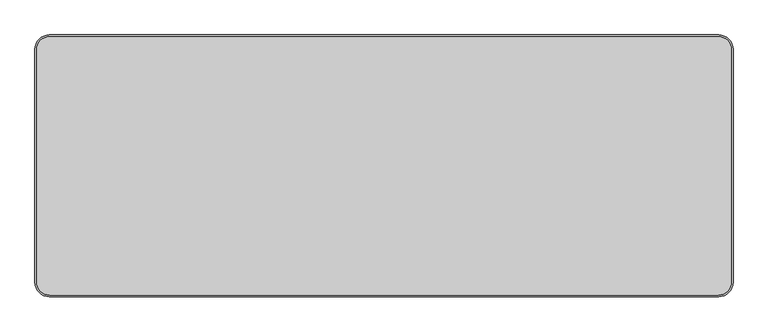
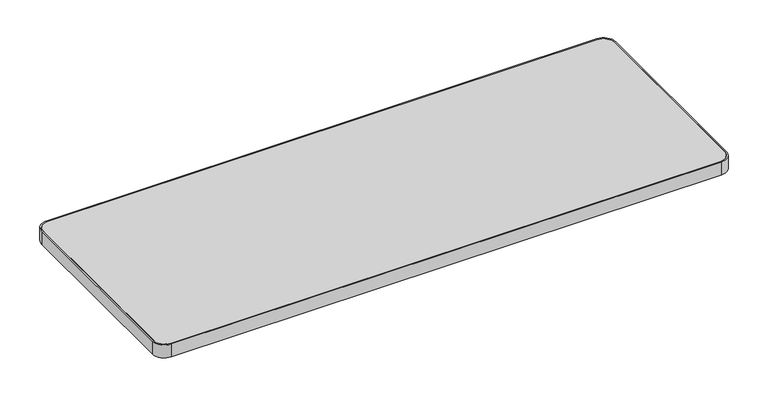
"""IFC4 building model written with IfcOpenShell, lengths in millimetres: furniture geometry, Steelcase - Groupwork - Table - Top - Rectangular : 18D x 48W - HPL."""

from ifc_helpers import new_model, si_unit, point, frame, frame_2d, origin, place, context, project, spatial, polyline, circle_curve, trimmed, segment, composite_curve, outline, extrude, source, transform, mapped, element, save


def furniture_dde260d6(model_context):
    return source(origin(), model_context, "Body", "SweptSolid", [
        extrude(outline(composite_curve([segment(polyline([(-612.14, 225.6), (555.34, 225.6)]), True, "CONTINUOUS"), segment(trimmed(circle_curve(frame_2d((555.34, 202.74)), 22.86), [point((555.34, 225.6))], [point((578.2, 202.74))], False, "CARTESIAN"), True, "CONTINUOUS"), segment(polyline([(578.2, 202.74), (578.2, -202.74)]), True, "CONTINUOUS"), segment(trimmed(circle_curve(frame_2d((555.34, -202.74)), 22.86), [point((578.2, -202.74))], [point((555.34, -225.6))], False, "CARTESIAN"), True, "CONTINUOUS"), segment(polyline([(555.34, -225.6), (-612.14, -225.6)]), True, "CONTINUOUS"), segment(trimmed(circle_curve(frame_2d((-612.14, -202.74)), 22.86), [point((-612.14, -225.6))], [point((-635.0, -202.74))], False, "CARTESIAN"), True, "CONTINUOUS"), segment(polyline([(-635.0, -202.74), (-635.0, 202.74)]), True, "CONTINUOUS"), segment(trimmed(circle_curve(frame_2d((-612.14, 202.74)), 22.86), [point((-635.0, 202.74))], [point((-612.14, 225.6))], False, "CARTESIAN"), True, "CONTINUOUS")], self_intersect=False)), frame((0.0, 0.0, 694.944), z_axis=(0.0, 0.0, 1.0), x_axis=(1.0, 0.0, 0.0)), (0.0, 0.0, 1.0), 28.956),
        extrude(outline(composite_curve([segment(trimmed(circle_curve(frame_2d((555.7385373, 203.1385373)), 25.4614627), [point((555.7385373, 228.6))], [point((581.2, 203.1385373))], False, "CARTESIAN"), True, "CONTINUOUS"), segment(polyline([(581.2, 203.1385373), (581.2, -203.2211297)]), True, "CONTINUOUS"), segment(trimmed(circle_curve(frame_2d((555.8211297, -203.2211297)), 25.3788703), [point((581.2, -203.2211297))], [point((555.8211297, -228.6))], False, "CARTESIAN"), True, "CONTINUOUS"), segment(polyline([(555.8211297, -228.6), (-612.6, -228.6)]), True, "CONTINUOUS"), segment(trimmed(circle_curve(frame_2d((-612.6, -203.2)), 25.4), [point((-612.6, -228.6))], [point((-638.0, -203.2))], False, "CARTESIAN"), True, "CONTINUOUS"), segment(polyline([(-638.0, -203.2), (-638.0, 203.2)]), True, "CONTINUOUS"), segment(trimmed(circle_curve(frame_2d((-612.6, 203.2)), 25.4), [point((-638.0, 203.2))], [point((-612.6, 228.6))], False, "CARTESIAN"), True, "CONTINUOUS"), segment(polyline([(-612.6, 228.6), (555.7385373, 228.6)]), True, "CONTINUOUS")], self_intersect=False), holes=[composite_curve([segment(polyline([(555.4064662, 225.6), (-612.14, 225.6)]), True, "CONTINUOUS"), segment(trimmed(circle_curve(frame_2d((-612.14, 202.74)), 22.86), [point((-612.14, 225.6))], [point((-635.0, 202.74))], True, "CARTESIAN"), True, "CONTINUOUS"), segment(polyline([(-635.0, 202.74), (-635.0, -202.74)]), True, "CONTINUOUS"), segment(trimmed(circle_curve(frame_2d((-612.14, -202.74)), 22.86), [point((-635.0, -202.74))], [point((-612.14, -225.6))], True, "CARTESIAN"), True, "CONTINUOUS"), segment(polyline([(-612.14, -225.6), (555.173488, -225.6)]), True, "CONTINUOUS"), segment(trimmed(circle_curve(frame_2d((555.173488, -202.573488)), 23.026512), [point((555.173488, -225.6))], [point((578.2, -202.573488))], True, "CARTESIAN"), True, "CONTINUOUS"), segment(polyline([(578.2, -202.573488), (578.2, 202.8064662)]), True, "CONTINUOUS"), segment(trimmed(circle_curve(frame_2d((555.4064662, 202.8064662)), 22.7935338), [point((578.2, 202.8064662))], [point((555.4064662, 225.6))], True, "CARTESIAN"), True, "CONTINUOUS")], self_intersect=False)]), frame((0.0, 0.0, 694.944), z_axis=(0.0, 0.0, 1.0), x_axis=(1.0, 0.0, 0.0)), (0.0, 0.0, 1.0), 28.956),
    ])


if __name__ == "__main__":
    model = new_model("IFC4")
    model_context = context("Model", 3, world=origin())
    ifc_project = project(units=[si_unit("LENGTHUNIT", "METRE", prefix="MILLI")], contexts=[model_context])
    site = spatial("IfcSite", under=ifc_project)
    building = spatial("IfcBuilding", under=site)
    placement = place(None, origin())
    furniture_shape = furniture_dde260d6(model_context)
    element("IfcFurniture", 1, ObjectType="Steelcase - Groupwork - Table - Top - Rectangular : 18D x 48W - HPL", at=placement, inside=building, context=model_context, shape_type="MappedRepresentation", body=[
        mapped(furniture_shape, transform((0.0, 0.0, 0.0), x_axis=(1.0, 0.0, 0.0), y_axis=(0.0, 1.0, 0.0), z_axis=(0.0, 0.0, 1.0))),
    ])
    save(model, "model.ifc")
